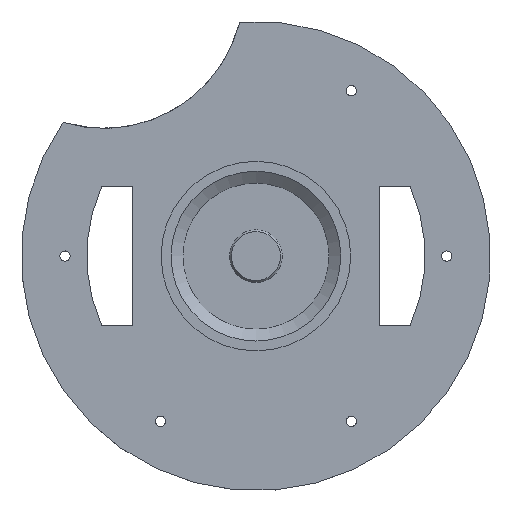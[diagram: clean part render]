
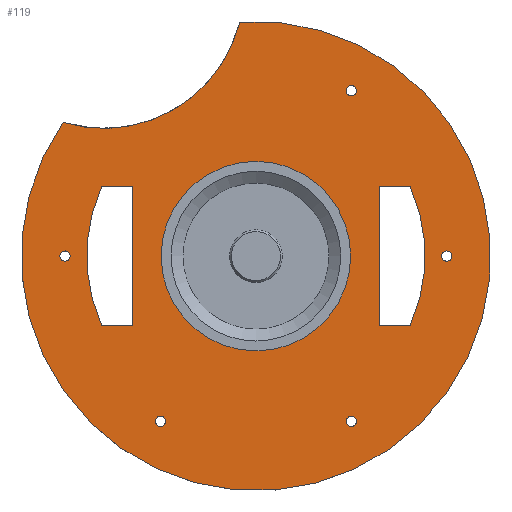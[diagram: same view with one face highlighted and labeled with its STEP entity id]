
A CAD part, top view. The second image highlights one B-rep face of the part: STEP entity #119.
In plain terms, the highlighted planar face has unit normal (0, 0, 1).
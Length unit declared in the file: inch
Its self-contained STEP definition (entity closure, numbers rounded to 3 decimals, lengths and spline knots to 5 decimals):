
#34=PLANE('',#612);
#52=LINE('',#886,#72);
#53=LINE('',#888,#73);
#54=LINE('',#890,#74);
#55=LINE('',#897,#75);
#56=LINE('',#902,#76);
#57=LINE('',#904,#77);
#72=VECTOR('',#706,1.);
#73=VECTOR('',#707,1.);
#74=VECTOR('',#708,1.);
#75=VECTOR('',#715,1.);
#76=VECTOR('',#718,1.);
#77=VECTOR('',#719,1.);
#119=ADVANCED_FACE('',(#178,#179,#180,#181,#182,#183,#184,#185,#186),#34,
 .T.);
#178=FACE_BOUND('',#242,.T.);
#179=FACE_BOUND('',#243,.T.);
#180=FACE_BOUND('',#244,.T.);
#181=FACE_BOUND('',#245,.T.);
#182=FACE_BOUND('',#246,.T.);
#183=FACE_BOUND('',#247,.T.);
#184=FACE_BOUND('',#248,.T.);
#185=FACE_BOUND('',#249,.T.);
#186=FACE_BOUND('',#250,.T.);
#242=EDGE_LOOP('',(#322));
#243=EDGE_LOOP('',(#323));
#244=EDGE_LOOP('',(#324));
#245=EDGE_LOOP('',(#325));
#246=EDGE_LOOP('',(#326));
#247=EDGE_LOOP('',(#327,#328,#329,#330));
#248=EDGE_LOOP('',(#331));
#249=EDGE_LOOP('',(#332,#333));
#250=EDGE_LOOP('',(#334,#335,#336,#337));
#322=ORIENTED_EDGE('',*,*,#494,.F.);
#323=ORIENTED_EDGE('',*,*,#492,.F.);
#324=ORIENTED_EDGE('',*,*,#490,.F.);
#325=ORIENTED_EDGE('',*,*,#488,.F.);
#326=ORIENTED_EDGE('',*,*,#486,.F.);
#327=ORIENTED_EDGE('',*,*,#500,.F.);
#328=ORIENTED_EDGE('',*,*,#501,.F.);
#329=ORIENTED_EDGE('',*,*,#502,.F.);
#330=ORIENTED_EDGE('',*,*,#503,.F.);
#331=ORIENTED_EDGE('',*,*,#504,.T.);
#332=ORIENTED_EDGE('',*,*,#505,.F.);
#333=ORIENTED_EDGE('',*,*,#506,.F.);
#334=ORIENTED_EDGE('',*,*,#507,.T.);
#335=ORIENTED_EDGE('',*,*,#508,.T.);
#336=ORIENTED_EDGE('',*,*,#509,.T.);
#337=ORIENTED_EDGE('',*,*,#510,.T.);
#434=VERTEX_POINT('',#844);
#436=VERTEX_POINT('',#849);
#438=VERTEX_POINT('',#854);
#440=VERTEX_POINT('',#859);
#442=VERTEX_POINT('',#864);
#448=VERTEX_POINT('',#884);
#449=VERTEX_POINT('',#885);
#450=VERTEX_POINT('',#887);
#451=VERTEX_POINT('',#889);
#452=VERTEX_POINT('',#892);
#453=VERTEX_POINT('',#894);
#454=VERTEX_POINT('',#895);
#455=VERTEX_POINT('',#898);
#456=VERTEX_POINT('',#899);
#457=VERTEX_POINT('',#901);
#458=VERTEX_POINT('',#903);
#486=EDGE_CURVE('',#434,#434,#549,.T.);
#488=EDGE_CURVE('',#436,#436,#551,.T.);
#490=EDGE_CURVE('',#438,#438,#553,.T.);
#492=EDGE_CURVE('',#440,#440,#555,.T.);
#494=EDGE_CURVE('',#442,#442,#557,.T.);
#500=EDGE_CURVE('',#448,#449,#561,.T.);
#501=EDGE_CURVE('',#450,#448,#52,.T.);
#502=EDGE_CURVE('',#451,#450,#53,.T.);
#503=EDGE_CURVE('',#449,#451,#54,.T.);
#504=EDGE_CURVE('',#452,#452,#562,.T.);
#505=EDGE_CURVE('',#453,#454,#563,.T.);
#506=EDGE_CURVE('',#454,#453,#564,.T.);
#507=EDGE_CURVE('',#455,#456,#55,.T.);
#508=EDGE_CURVE('',#456,#457,#565,.T.);
#509=EDGE_CURVE('',#457,#458,#56,.T.);
#510=EDGE_CURVE('',#458,#455,#57,.T.);
#549=CIRCLE('',#589,0.05482);
#551=CIRCLE('',#592,0.05482);
#553=CIRCLE('',#595,0.05482);
#555=CIRCLE('',#598,0.05482);
#557=CIRCLE('',#601,0.05482);
#561=CIRCLE('',#607,1.8026);
#562=CIRCLE('',#608,1.0098);
#563=CIRCLE('',#609,2.5);
#564=CIRCLE('',#610,1.49381);
#565=CIRCLE('',#611,1.8026);
#589=AXIS2_PLACEMENT_3D('',#843,#668,#669);
#592=AXIS2_PLACEMENT_3D('',#848,#674,#675);
#595=AXIS2_PLACEMENT_3D('',#853,#680,#681);
#598=AXIS2_PLACEMENT_3D('',#858,#686,#687);
#601=AXIS2_PLACEMENT_3D('',#863,#692,#693);
#607=AXIS2_PLACEMENT_3D('',#883,#704,#705);
#608=AXIS2_PLACEMENT_3D('',#891,#709,#710);
#609=AXIS2_PLACEMENT_3D('',#893,#711,#712);
#610=AXIS2_PLACEMENT_3D('',#896,#713,#714);
#611=AXIS2_PLACEMENT_3D('',#900,#716,#717);
#612=AXIS2_PLACEMENT_3D('',#905,#720,#721);
#668=DIRECTION('',(0.,0.,1.));
#669=DIRECTION('',(-0.5,-0.866,0.));
#674=DIRECTION('',(0.,0.,1.));
#675=DIRECTION('',(-1.,0.,0.));
#680=DIRECTION('',(0.,0.,1.));
#681=DIRECTION('',(-0.5,0.866,0.));
#686=DIRECTION('',(0.,0.,1.));
#687=DIRECTION('',(0.5,0.866,0.));
#692=DIRECTION('',(0.,0.,1.));
#693=DIRECTION('',(1.,0.,0.));
#704=DIRECTION('',(0.,0.,1.));
#705=DIRECTION('',(-1.,0.,0.));
#706=DIRECTION('',(1.,0.,0.));
#707=DIRECTION('',(0.,-1.,0.));
#708=DIRECTION('',(-1.,0.,0.));
#709=DIRECTION('',(0.,0.,-1.));
#710=DIRECTION('',(-1.,0.,0.));
#711=DIRECTION('',(0.,0.,-1.));
#712=DIRECTION('',(-1.,0.,0.));
#713=DIRECTION('',(0.,0.,1.));
#714=DIRECTION('',(1.,0.,0.));
#715=DIRECTION('',(-1.,0.,0.));
#716=DIRECTION('',(0.,0.,-1.));
#717=DIRECTION('',(1.,0.,0.));
#718=DIRECTION('',(1.,0.,0.));
#719=DIRECTION('',(0.,-1.,0.));
#720=DIRECTION('',(0.,0.,1.));
#721=DIRECTION('',(1.,0.,0.));
#843=CARTESIAN_POINT('',(1.01671,1.761,0.41602));
#844=CARTESIAN_POINT('',(0.9893,1.71352,0.41602));
#848=CARTESIAN_POINT('',(2.03343,0.,0.41602));
#849=CARTESIAN_POINT('',(1.9786,0.,0.41602));
#853=CARTESIAN_POINT('',(1.01671,-1.761,0.41602));
#854=CARTESIAN_POINT('',(0.9893,-1.71352,0.41602));
#858=CARTESIAN_POINT('',(-1.01671,-1.761,0.41602));
#859=CARTESIAN_POINT('',(-0.9893,-1.71352,0.41602));
#863=CARTESIAN_POINT('',(-2.03343,0.,0.41602));
#864=CARTESIAN_POINT('',(-1.9786,0.,0.41602));
#883=CARTESIAN_POINT('',(0.0002,0.,0.41602));
#884=CARTESIAN_POINT('',(1.64209,-0.74402,0.41602));
#885=CARTESIAN_POINT('',(1.64209,0.74402,0.41602));
#886=CARTESIAN_POINT('',(1.31169,-0.74402,0.41602));
#887=CARTESIAN_POINT('',(1.31169,-0.74402,0.41602));
#888=CARTESIAN_POINT('',(1.31169,0.74402,0.41602));
#889=CARTESIAN_POINT('',(1.31169,0.74402,0.41602));
#890=CARTESIAN_POINT('',(1.64209,0.74402,0.41602));
#891=CARTESIAN_POINT('',(0.,0.,0.41602));
#892=CARTESIAN_POINT('',(-1.0098,0.,0.41602));
#893=CARTESIAN_POINT('',(0.,0.,0.41602));
#894=CARTESIAN_POINT('',(-0.17225,2.494,0.41602));
#895=CARTESIAN_POINT('',(-2.05458,1.42403,0.41602));
#896=CARTESIAN_POINT('',(-1.62206,2.8538,0.41602));
#897=CARTESIAN_POINT('',(-1.31169,-0.74402,0.41602));
#898=CARTESIAN_POINT('',(-1.31169,-0.74402,0.41602));
#899=CARTESIAN_POINT('',(-1.64209,-0.74402,0.41602));
#900=CARTESIAN_POINT('',(-0.0002,0.,0.41602));
#901=CARTESIAN_POINT('',(-1.64209,0.74402,0.41602));
#902=CARTESIAN_POINT('',(-1.64209,0.74402,0.41602));
#903=CARTESIAN_POINT('',(-1.31169,0.74402,0.41602));
#904=CARTESIAN_POINT('',(-1.31169,0.74402,0.41602));
#905=CARTESIAN_POINT('',(2.5,0.,0.41602));
